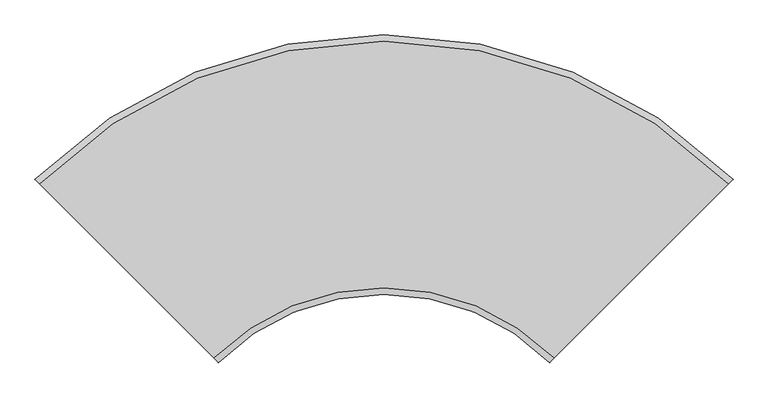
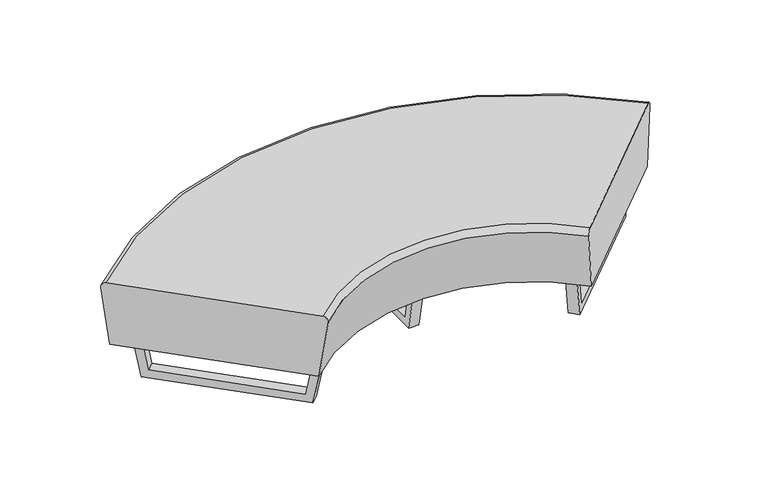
"""IFC4 building model written with IfcOpenShell, lengths in millimetres: furniture geometry, Furniture-Sofa-LyndonDesign-Us_US_10 : Furniture-Sofa-LyndonDesign-Us_US_10."""

from ifc_helpers import new_model, si_unit, point, frame, origin, place, context, project, spatial, polyline, circle_curve, ellipse_curve, trimmed, outline, extrude, source, transform, mapped, element, save
from ifc_brep_helpers import plane_surface, revolved_surface, advanced_brep


def furniture_4fde7079(model_context):
    return source(origin(), model_context, "Body", "SolidModel", [
        extrude(outline(polyline([(58.8556202, 0.0), (30.0, 150.0008635), (687.7146945, 150.0008635), (658.8590743, 0.0), (58.8556202, 0.0)]), holes=[polyline([(632.4139352, 31.992539), (650.0992947, 124.0047668), (67.6153998, 124.0047668), (85.2869426, 31.992539), (632.4139352, 31.992539)])]), frame((-20.0, 0.0, 0.0), z_axis=(1.0, 0.0, 0.0), x_axis=(0.0, 1.0, 0.0)), (0.0, 0.0, 1.0), 40.0),
        extrude(outline(polyline([(-144.0066093, 0.0), (8.7445146, 0.0), (-115.5018078, -645.8726428), (-257.350926, -589.2004845), (-144.0066093, 0.0)]), holes=[polyline([(-220.9387595, -569.275072), (-133.9240701, -604.0236811), (-23.8893051, -32.0273189), (-117.5831293, -31.9990166), (-220.9387595, -569.275072)])]), frame((-499.9935041, -179.539855, 141.4137925), z_axis=(0.7071067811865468, 0.7071067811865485, 0.0), x_axis=(0.13357678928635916, -0.13357678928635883, 0.9819951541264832)), (0.0, 0.0, 1.0), 40.0),
        extrude(outline(polyline([(-789.9948218, 0.0), (-189.9913676, 0.0), (-161.1357474, -150.0008635), (-818.850442, -150.0008635), (-789.9948218, 0.0)]), holes=[polyline([(-216.4365067, -31.992539), (-763.5634993, -31.992539), (-781.2350421, -124.0047668), (-198.7511472, -124.0047668), (-216.4365067, -31.992539)])]), frame((1077.8401402, 398.3067811, 0.0), z_axis=(-0.7071067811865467, 0.7071067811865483, 0.0), x_axis=(0.7071067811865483, 0.7071067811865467, 0.0)), (0.0, 0.0, 1.0), 40.0),
        advanced_brep(
        [(1055.6943889, 305.4503517, 400.0), (521.3381445, -228.9058927, 400.0), (507.2746732, -242.969364, 377.8934504), (530.5026463, -219.741391, 150.0008635), (1046.5180362, 296.2739989, 150.0008635), (1069.758874, 319.5148367, 377.9070309), (-1055.6943889, 305.4503517, 400.0), (-1069.758874, 319.5148367, 377.9070309), (-1046.5180362, 296.2739989, 150.0008635), (-530.5026463, -219.741391, 150.0008635), (-507.2746732, -242.969364, 377.8934504), (-521.3381445, -228.9058927, 400.0)],
        [
            (0, 1),
            (1, 2, circle_curve(frame((521.3381445, -228.9058927, 380.0), z_axis=(0.7071067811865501, -0.7071067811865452, 0.0), x_axis=(-0.7071067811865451, -0.70710678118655, 0.0)), 20.0)),
            (2, 3, circle_curve(frame((2658.7856996, 1908.5416624, 700.1655651), z_axis=(0.7071067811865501, -0.7071067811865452, 0.0), x_axis=(-0.7071067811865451, -0.70710678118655, 0.0)), 3059.7154621)),
            (3, 4),
            (4, 5, circle_curve(frame((-1039.8904621, -1790.1344993, 691.8489037), z_axis=(0.7071067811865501, -0.7071067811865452, 0.0), x_axis=(-0.7071067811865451, -0.70710678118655, 0.0)), 2999.9666901)),
            (5, 0, circle_curve(frame((1055.6943889, 305.4503517, 380.0), z_axis=(0.7071067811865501, -0.7071067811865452, 0.0), x_axis=(-0.7071067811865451, -0.70710678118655, 0.0)), 20.0)),
            (6, 7, circle_curve(frame((-1055.6943889, 305.4503517, 380.0), z_axis=(-0.7071067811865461, -0.707106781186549, 0.0), x_axis=(0.7071067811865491, -0.7071067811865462, 0.0)), 20.0)),
            (7, 8, circle_curve(frame((1039.8904621, -1790.1344993, 691.8489037), z_axis=(-0.7071067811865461, -0.707106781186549, 0.0), x_axis=(0.7071067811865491, -0.7071067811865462, 0.0)), 2999.9666901)),
            (8, 9),
            (9, 10, circle_curve(frame((-2658.7856996, 1908.5416624, 700.1655651), z_axis=(-0.7071067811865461, -0.707106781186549, 0.0), x_axis=(0.7071067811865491, -0.7071067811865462, 0.0)), 3059.7154621)),
            (10, 11, circle_curve(frame((-521.3381445, -228.9058927, 380.0), z_axis=(-0.7071067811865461, -0.707106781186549, 0.0), x_axis=(0.7071067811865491, -0.7071067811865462, 0.0)), 20.0)),
            (11, 6),
            (11, 1, circle_curve(frame((0.0, -750.2440372, 400.0), z_axis=(0.0, 0.0, -1.0), x_axis=(0.7071067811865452, 0.7071067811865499, 0.0)), 737.2834746)),
            (0, 6, circle_curve(frame((0.0, -750.2440372, 400.0), z_axis=(0.0, 0.0, 1.0), x_axis=(0.7071067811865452, 0.7071067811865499, 0.0)), 1492.9773225)),
            (10, 2, circle_curve(frame((0.0, -750.2440372, 377.8934504), z_axis=(0.0, 0.0, -1.0), x_axis=(0.7071067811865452, 0.7071067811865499, 0.0)), 717.3947227)),
            (9, 3, circle_curve(frame((0.0, -750.2440372, 150.0008635), z_axis=(0.0, 0.0, -1.0), x_axis=(0.7071067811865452, 0.7071067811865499, 0.0)), 750.2440372)),
            (8, 4, circle_curve(frame((0.0, -750.2440372, 150.0008635), z_axis=(0.0, 0.0, -1.0), x_axis=(0.7071067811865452, 0.7071067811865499, 0.0)), 1480.0)),
            (7, 5, circle_curve(frame((0.0, -750.2440372, 377.9070309), z_axis=(0.0, 0.0, -1.0), x_axis=(0.7071067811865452, 0.7071067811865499, 0.0)), 1512.867508)),
        ],
        [
            plane_surface(frame((1046.5180362, 296.2739989, 150.0008635), z_axis=(0.7071067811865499, -0.7071067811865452, 0.0), x_axis=(0.0, 0.0, 1.0))),
            plane_surface(frame((-1046.5180362, 296.2739989, 150.0008635), z_axis=(-0.7071067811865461, -0.707106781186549, 0.0), x_axis=(0.0, 0.0, 1.0))),
            plane_surface(frame((0.0, -750.2440372, 400.0), z_axis=(0.0, 0.0, 1.0), x_axis=(0.7071067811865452, 0.7071067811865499, 0.0))),
            revolved_surface(trimmed(ellipse_curve(frame((521.3381445, -228.9058927, 380.0), z_axis=(0.7071067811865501, -0.7071067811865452, 0.0), x_axis=(-0.7071067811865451, -0.70710678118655, 0.0)), 20.0, 20.0), [point((521.3381445, -228.9058927, 400.0))], [point((507.2746732, -242.969364, 377.8934504))], True, "CARTESIAN"), (0.0, -750.2440372, 150.0008635), (0.0, 0.0, 1.0000000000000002)),
            revolved_surface(trimmed(ellipse_curve(frame((2658.7856996, 1908.5416624, 700.1655651), z_axis=(0.7071067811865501, -0.7071067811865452, 0.0), x_axis=(-0.7071067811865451, -0.70710678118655, 0.0)), 3059.7154621, 3059.7154621), [point((507.2746732, -242.969364, 377.8934504))], [point((530.5026463, -219.741391, 150.0008635))], True, "CARTESIAN"), (0.0, -750.2440372, 150.0008635), (0.0, 0.0, 1.0000000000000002)),
            plane_surface(frame((0.0, -750.2440372, 150.0008635), z_axis=(0.0, 0.0, -1.0), x_axis=(0.7071067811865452, 0.7071067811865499, 0.0))),
            revolved_surface(trimmed(ellipse_curve(frame((-1039.8904621, -1790.1344993, 691.8489037), z_axis=(0.7071067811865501, -0.7071067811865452, 0.0), x_axis=(-0.7071067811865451, -0.70710678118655, 0.0)), 2999.9666901, 2999.9666901), [point((1046.5180362, 296.2739989, 150.0008635))], [point((1069.758874, 319.5148367, 377.9070309))], True, "CARTESIAN"), (0.0, -750.2440372, 150.0008635), (0.0, 0.0, 1.0000000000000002)),
            revolved_surface(trimmed(ellipse_curve(frame((1055.6943889, 305.4503517, 380.0), z_axis=(0.7071067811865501, -0.7071067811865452, 0.0), x_axis=(-0.7071067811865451, -0.70710678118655, 0.0)), 20.0, 20.0), [point((1069.758874, 319.5148367, 377.9070309))], [point((1055.6943889, 305.4503517, 400.0))], True, "CARTESIAN"), (0.0, -750.2440372, 150.0008635), (0.0, 0.0, 1.0000000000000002)),
        ],
        [
            (0, [[1, 2, 3, 4, 5, 6]]),
            (1, [[7, 8, 9, 10, 11, 12]]),
            (2, [[13, -1, 14, -12]]),
            (3, [[15, -2, -13, -11]]),
            (4, [[16, -3, -15, -10]]),
            (5, [[17, -4, -16, -9]]),
            (6, [[18, -5, -17, -8]]),
            (7, [[-14, -6, -18, -7]]),
        ],
    ),
    ])


if __name__ == "__main__":
    model = new_model("IFC4")
    model_context = context("Model", 3, world=origin())
    ifc_project = project(units=[si_unit("LENGTHUNIT", "METRE", prefix="MILLI")], contexts=[model_context])
    site = spatial("IfcSite", under=ifc_project)
    building = spatial("IfcBuilding", under=site)
    placement = place(None, origin())
    furniture_shape = furniture_4fde7079(model_context)
    element("IfcFurniture", 1, ObjectType="Furniture-Sofa-LyndonDesign-Us_US_10 : Furniture-Sofa-LyndonDesign-Us_US_10", at=placement, inside=building, context=model_context, shape_type="MappedRepresentation", body=[
        mapped(furniture_shape, transform((0.0, 0.0, 0.0), x_axis=(1.0, 0.0, 0.0), y_axis=(0.0, 1.0, 0.0), z_axis=(0.0, 0.0, 1.0))),
    ])
    save(model, "model.ifc")
